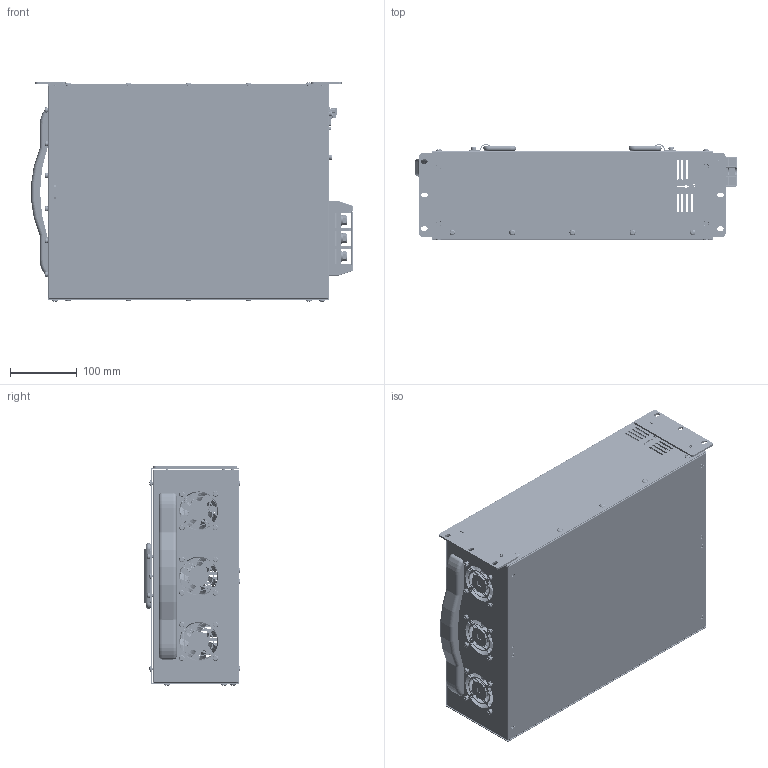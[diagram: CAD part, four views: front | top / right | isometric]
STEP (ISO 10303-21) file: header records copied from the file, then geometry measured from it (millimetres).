
FILE_DESCRIPTION(/* description */ (''),/* implementation_level */ '2;1');
FILE_NAME(/* name */ '',/* time_stamp */ '2026-06-25T10:56:50+09:00',/* author */ ('Administrator'),/* organization */ (''),/* preprocessor_version */ 'ST-DEVELOPER v20.1',/* originating_system */ 'Autodesk Inventor 2026',/* authorisation */ '');
FILE_SCHEMA (('AUTOMOTIVE_DESIGN { 1 0 10303 214 3 1 1 }'));
Products named in the file (1): VX4COM_V_ ASS'Y_2026.04.21_단순화_1
Bounding box: 480.37 x 142.3 x 328.17 mm (x, y, z)
Volume: 976122.8 mm3; surface area: 1224069.3 mm2
Topology: 14 solids, 14 shells, 8936 faces, 23512 edges, 15294 vertices
Faces by surface type: plane 5083, cylinder 2069, bspline 1377, torus 305, sphere 53, cone 49
Full cylindrical faces by diameter (mm): 0.013 x9, 0.6 x3, 0.609 x1, 0.61 x27, 0.635 x9, 0.7 x18, 0.75 x18, 0.85 x3, 0.9 x24, 1 x5, 1.397 x9, 1.5 x4, 2.1 x4, 2.286 x9, 2.5 x4, 2.8 x8, 2.957 x4, 3 x12, 3.048 x4, 3.4 x1, 3.6 x10, 3.783 x2, 3.8 x20, 3.9 x2, 4 x107, 4.3 x12, 4.5 x36, 5 x27, 5.3 x16, 5.4 x2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
Entity records: 320458 total; most frequent: CARTESIAN_POINT 94879, ORIENTED_EDGE 46962, DIRECTION 41219, EDGE_CURVE 23481, VERTEX_POINT 15294, LINE 14557, VECTOR 14557, AXIS2_PLACEMENT_3D 13331
